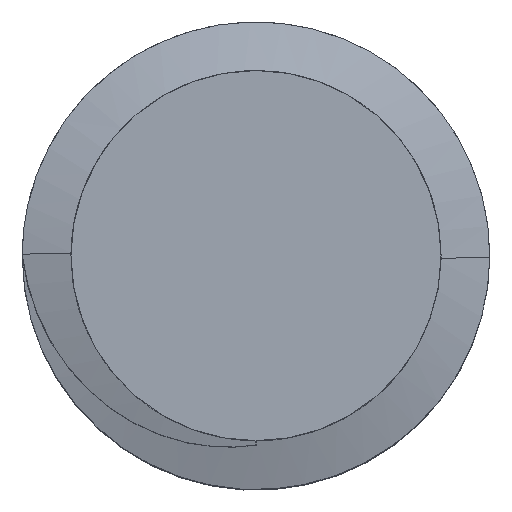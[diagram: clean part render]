
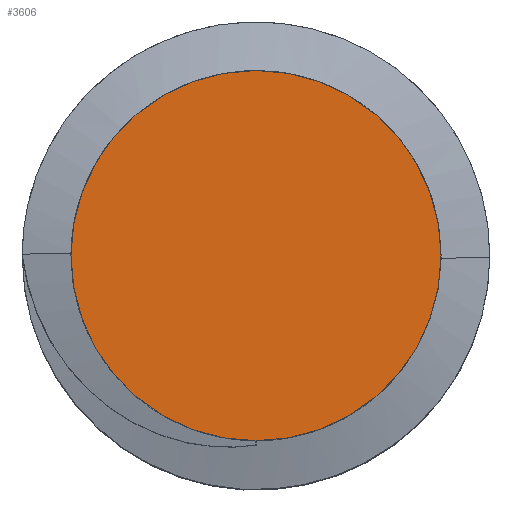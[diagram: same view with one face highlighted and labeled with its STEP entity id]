
A CAD part, top view. The second image highlights one B-rep face of the part: STEP entity #3606.
In plain terms, the highlighted planar face has unit normal (0, 0, 1).
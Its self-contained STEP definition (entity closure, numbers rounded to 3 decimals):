
#96 = CYLINDRICAL_SURFACE('',#97,9.5);
#97 = AXIS2_PLACEMENT_3D('',#98,#99,#100);
#98 = CARTESIAN_POINT('',(0.,0.,0.));
#99 = DIRECTION('',(0.,0.,1.));
#100 = DIRECTION('',(1.,0.,0.));
#1555 = VERTEX_POINT('',#1556);
#1556 = CARTESIAN_POINT('',(9.5,0.,32.5));
#1577 = EDGE_CURVE('',#1555,#1555,#1578,.T.);
#1578 = SURFACE_CURVE('',#1579,(#1584,#1591),.PCURVE_S1.);
#1579 = CIRCLE('',#1580,9.5);
#1580 = AXIS2_PLACEMENT_3D('',#1581,#1582,#1583);
#1581 = CARTESIAN_POINT('',(0.,0.,32.5));
#1582 = DIRECTION('',(0.,0.,1.));
#1583 = DIRECTION('',(1.,0.,0.));
#1584 = PCURVE('',#96,#1585);
#1585 = DEFINITIONAL_REPRESENTATION('',(#1586),#1590);
#1586 = LINE('',#1587,#1588);
#1587 = CARTESIAN_POINT('',(0.,32.5));
#1588 = VECTOR('',#1589,1.);
#1589 = DIRECTION('',(1.,0.));
#1590 = ( GEOMETRIC_REPRESENTATION_CONTEXT(2) 
PARAMETRIC_REPRESENTATION_CONTEXT() REPRESENTATION_CONTEXT('2D SPACE',''
  ) );
#1591 = PCURVE('',#1592,#1597);
#1592 = PLANE('',#1593);
#1593 = AXIS2_PLACEMENT_3D('',#1594,#1595,#1596);
#1594 = CARTESIAN_POINT('',(0.,0.,32.5));
#1595 = DIRECTION('',(0.,0.,1.));
#1596 = DIRECTION('',(1.,0.,0.));
#1597 = DEFINITIONAL_REPRESENTATION('',(#1598),#1602);
#1598 = CIRCLE('',#1599,9.5);
#1599 = AXIS2_PLACEMENT_2D('',#1600,#1601);
#1600 = CARTESIAN_POINT('',(0.,0.));
#1601 = DIRECTION('',(1.,0.));
#1602 = ( GEOMETRIC_REPRESENTATION_CONTEXT(2) 
PARAMETRIC_REPRESENTATION_CONTEXT() REPRESENTATION_CONTEXT('2D SPACE',''
  ) );
#3606 = ADVANCED_FACE('',(#3607),#1592,.T.);
#3607 = FACE_BOUND('',#3608,.T.);
#3608 = EDGE_LOOP('',(#3609));
#3609 = ORIENTED_EDGE('',*,*,#1577,.T.);
